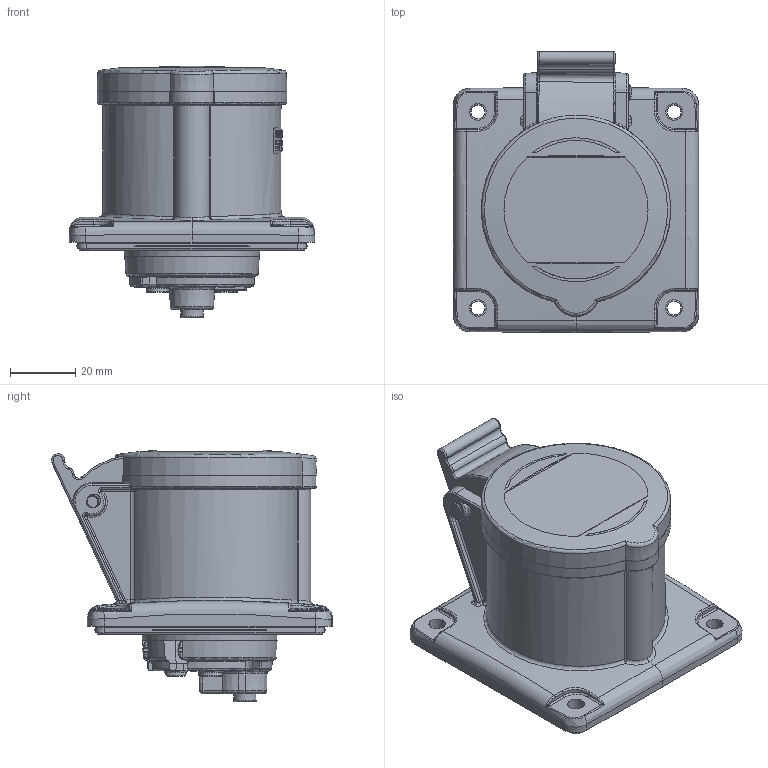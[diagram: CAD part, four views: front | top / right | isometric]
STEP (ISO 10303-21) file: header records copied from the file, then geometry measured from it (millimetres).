
FILE_DESCRIPTION(/* description */ (''),/* implementation_level */ '2;1');
FILE_NAME(/* name */ '4006949.stp',/* time_stamp */ '2019-11-12T08:26:42+01:00',/* author */ (''),/* organization */ (''),/* preprocessor_version */ 'ST-DEVELOPER v16.7',/* originating_system */ 'SIEMENS PLM Software NX 1888',/* authorisation */ '');
FILE_SCHEMA (('AUTOMOTIVE_DESIGN { 1 0 10303 214 3 1 1 1 }'));
Length unit declared in the file: millimetre
Products named in the file (1): BSOM338C9F47ukbq
Bounding box: 75 x 85.93 x 76.88 mm (x, y, z)
Volume: 82382.1 mm3; surface area: 89226.7 mm2
Topology: 17 solids, 17 shells, 3616 faces, 9372 edges, 5744 vertices
Faces by surface type: plane 1161, cylinder 774, bspline 609, cone 367, torus 293, extrusion 290, sphere 122
Full cylindrical faces by diameter (mm): 0.998 x4, 1 x2, 2.25 x2, 3 x6, 3.2 x2, 3.5 x4, 3.6 x4, 4 x5, 4.3 x2, 4.643 x1, 5 x2, 5.1 x4, 5.7 x4, 5.8 x4, 7 x3, 7.1 x1, 9 x1, 40 x1, 50 x1
Entity records: 164076 total; most frequent: CARTESIAN_POINT 83166, ORIENTED_EDGE 17830, DIRECTION 15179, EDGE_CURVE 8915, AXIS2_PLACEMENT_3D 5913, VERTEX_POINT 5633, EDGE_LOOP 3982, ADVANCED_FACE 3615
